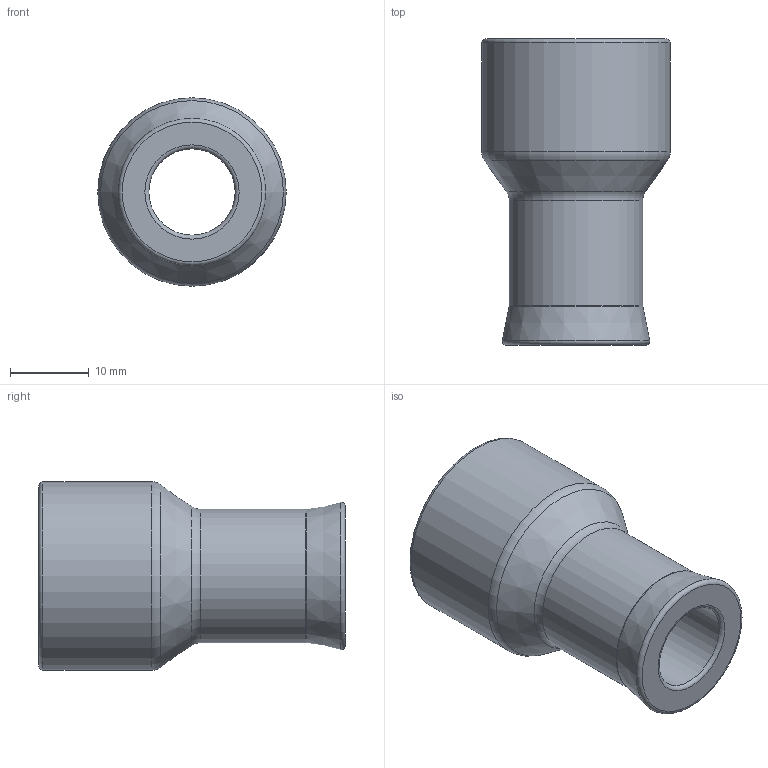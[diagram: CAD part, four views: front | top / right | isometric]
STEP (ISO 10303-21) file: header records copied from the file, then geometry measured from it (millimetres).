
FILE_DESCRIPTION(/* description */ (''),/* implementation_level */ '2;1');
FILE_NAME(/* name */ 'E:\Dropbox\Harjoitukset\Ignition coil\seal2.stp',/* time_stamp */ '2018-03-30T20:02:35+03:00',/* author */ ('Antti'),/* organization */ (''),/* preprocessor_version */ 'ST-DEVELOPER v17',/* originating_system */ 'Autodesk Inventor 2018',/* authorisation */ '');
FILE_SCHEMA (('AUTOMOTIVE_DESIGN { 1 0 10303 214 3 1 1 }'));
Length unit declared in the file: millimetre
Products named in the file (1): seal2
Bounding box: 24 x 39 x 24 mm (x, y, z)
Volume: 7021.9 mm3; surface area: 5383.4 mm2
Topology: 1 solids, 1 shells, 33 faces, 111 edges, 84 vertices
Faces by surface type: torus 14, cylinder 9, plane 6, cone 4
Full cylindrical faces by diameter (mm): 11 x1, 13 x1, 17 x4, 19.5 x2, 24 x1
Entity records: 1366 total; most frequent: DIRECTION 277, CARTESIAN_POINT 229, ORIENTED_EDGE 222, AXIS2_PLACEMENT_3D 132, EDGE_CURVE 111, CIRCLE 98, VERTEX_POINT 84, EDGE_LOOP 39
